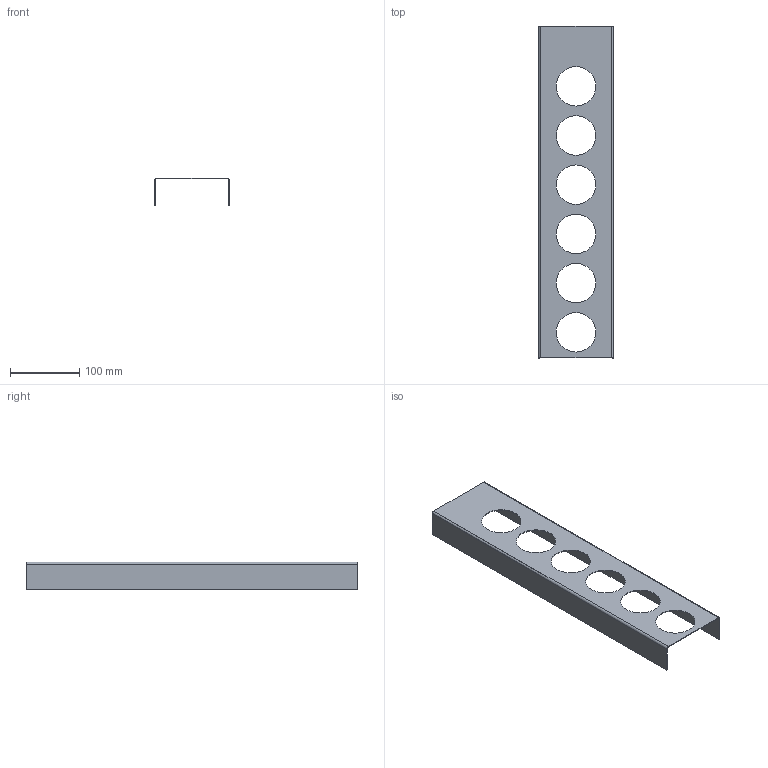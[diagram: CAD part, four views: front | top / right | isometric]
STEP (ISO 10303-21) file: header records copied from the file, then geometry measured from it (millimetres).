
FILE_DESCRIPTION (( 'STEP AP214' ), '1' );
FILE_NAME ('Gewuerzeinsatz_68323-01.STEP', '2010-10-25T13:50:08', ( 'grass' ), ( '' ), 'SwSTEP 2.0', 'SolidWorks 2010', '' );
FILE_SCHEMA (( 'AUTOMOTIVE_DESIGN' ));
Length unit declared in the file: millimetre
Products named in the file (1): Gewuerzeinsatz_68323-01
Bounding box: 108 x 479 x 40 mm (x, y, z)
Volume: 72755.5 mm3; surface area: 147911.1 mm2
Topology: 1 solids, 1 shells, 26 faces, 72 edges, 48 vertices
Faces by surface type: cylinder 16, plane 10
Entity records: 906 total; most frequent: DIRECTION 158, CARTESIAN_POINT 147, ORIENTED_EDGE 144, EDGE_CURVE 72, AXIS2_PLACEMENT_3D 59, VERTEX_POINT 48, LINE 40, VECTOR 40
